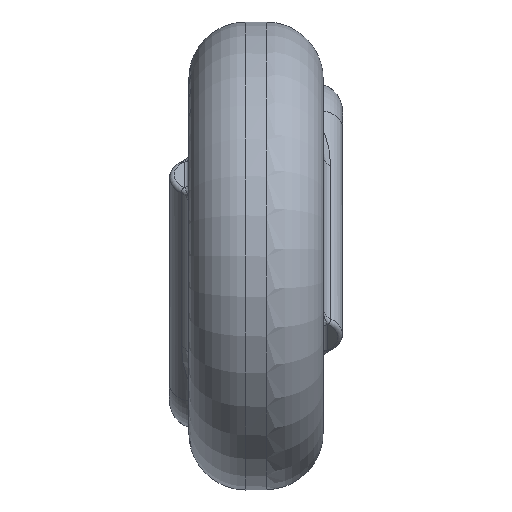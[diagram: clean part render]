
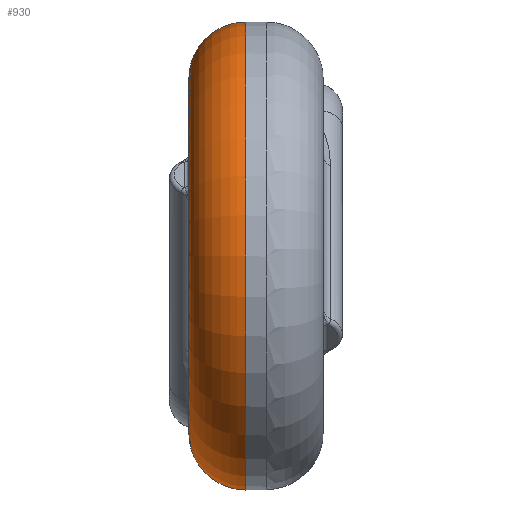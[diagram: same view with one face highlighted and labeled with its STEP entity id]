
A CAD part, left-side view. The second image highlights one B-rep face of the part: STEP entity #930.
In plain terms, the highlighted toroidal (fillet/blend) face has major radius 7.8 mm and minor radius 2.5 mm.
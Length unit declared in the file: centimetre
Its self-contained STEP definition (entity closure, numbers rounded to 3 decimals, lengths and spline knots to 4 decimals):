
#222=CARTESIAN_POINT('',(0.6456,0.51,-0.4377));
#223=VERTEX_POINT('',#222);
#230=CARTESIAN_POINT('',(0.7766,0.51,-0.0723));
#231=VERTEX_POINT('',#230);
#232=CARTESIAN_POINT('',(0.0,0.51,0.0));
#233=DIRECTION('',(0.0,-1.0,0.0));
#234=DIRECTION('',(-1.0,0.0,0.0));
#235=AXIS2_PLACEMENT_3D('',#232,#233,#234);
#236=CIRCLE('',#235,0.78);
#237=EDGE_CURVE('',#231,#223,#236,.T.);
#700=CARTESIAN_POINT('',(0.7621,0.3798,-0.6465));
#701=VERTEX_POINT('',#700);
#709=CARTESIAN_POINT('',(0.7621,0.3798,-0.6465));
#710=CARTESIAN_POINT('',(0.7494,0.403,-0.6419));
#711=CARTESIAN_POINT('',(0.7286,0.4461,-0.6144));
#712=CARTESIAN_POINT('',(0.6979,0.4955,-0.5359));
#713=CARTESIAN_POINT('',(0.6694,0.51,-0.4713));
#714=CARTESIAN_POINT('',(0.6456,0.51,-0.4377));
#715=B_SPLINE_CURVE_WITH_KNOTS('',3,(#709,#710,#711,#712,#713,#714),.UNSPECIFIED.,.F.,.U.,(4,1,1,4),(-0.3714,-0.2653,-0.1592,0.),.UNSPECIFIED.);
#716=EDGE_CURVE('',#701,#223,#715,.T.);
#770=CARTESIAN_POINT('',(0.8756,0.2639,-0.5424));
#771=VERTEX_POINT('',#770);
#779=CARTESIAN_POINT('',(0.8756,0.2639,-0.5424));
#780=CARTESIAN_POINT('',(0.8585,0.268,-0.5698));
#781=CARTESIAN_POINT('',(0.8289,0.2857,-0.6124));
#782=CARTESIAN_POINT('',(0.7899,0.3326,-0.6469));
#783=CARTESIAN_POINT('',(0.7706,0.3644,-0.6496));
#784=CARTESIAN_POINT('',(0.7621,0.3798,-0.6465));
#785=B_SPLINE_CURVE_WITH_KNOTS('',3,(#779,#780,#781,#782,#783,#784),.UNSPECIFIED.,.F.,.U.,(4,1,1,4),(-0.2463,-0.1407,-0.0704,0.),.UNSPECIFIED.);
#786=EDGE_CURVE('',#771,#701,#785,.T.);
#875=CARTESIAN_POINT('',(0.7766,0.51,-0.0723));
#876=CARTESIAN_POINT('',(0.7934,0.51,-0.0991));
#877=CARTESIAN_POINT('',(0.8295,0.5056,-0.1486));
#878=CARTESIAN_POINT('',(0.8886,0.4772,-0.2042));
#879=CARTESIAN_POINT('',(0.9377,0.4276,-0.2517));
#880=CARTESIAN_POINT('',(0.9637,0.3652,-0.3052));
#881=CARTESIAN_POINT('',(0.9589,0.3046,-0.3729));
#882=CARTESIAN_POINT('',(0.9259,0.2643,-0.4554));
#883=CARTESIAN_POINT('',(0.8929,0.2598,-0.5146));
#884=CARTESIAN_POINT('',(0.8756,0.2639,-0.5424));
#885=B_SPLINE_CURVE_WITH_KNOTS('',3,(#875,#876,#877,#878,#879,#880,#881,#882,#883,#884),.UNSPECIFIED.,.F.,.U.,(4,1,1,1,1,1,1,4),(-1.3685,-1.2613,-1.1541,-1.0469,-0.9397,-0.8325,-0.7253,-0.6181),.UNSPECIFIED.);
#886=EDGE_CURVE('',#231,#771,#885,.T.);
#908=CARTESIAN_POINT('',(0.0,0.26,0.0));
#909=DIRECTION('',(0.0,1.0,0.0));
#910=DIRECTION('',(1.0,0.0,0.0));
#911=AXIS2_PLACEMENT_3D('',#908,#909,#910);
#912=TOROIDAL_SURFACE('',#911,0.78,0.25);
#913=CARTESIAN_POINT('',(1.03,0.26,0.));
#914=VERTEX_POINT('',#913);
#915=CARTESIAN_POINT('',(0.0,0.26,0.0));
#916=DIRECTION('',(0.0,1.0,0.0));
#917=DIRECTION('',(-1.0,0.0,0.0));
#918=AXIS2_PLACEMENT_3D('',#915,#916,#917);
#919=CIRCLE('',#918,1.03);
#920=EDGE_CURVE('',#914,#914,#919,.T.);
#921=ORIENTED_EDGE('',*,*,#920,.T.);
#922=EDGE_LOOP('',(#921));
#923=FACE_OUTER_BOUND('',#922,.T.);
#924=ORIENTED_EDGE('',*,*,#886,.F.);
#925=ORIENTED_EDGE('',*,*,#237,.T.);
#926=ORIENTED_EDGE('',*,*,#716,.F.);
#927=ORIENTED_EDGE('',*,*,#786,.F.);
#928=EDGE_LOOP('',(#924,#925,#926,#927));
#929=FACE_BOUND('',#928,.T.);
#930=ADVANCED_FACE('',(#923,#929),#912,.T.);
